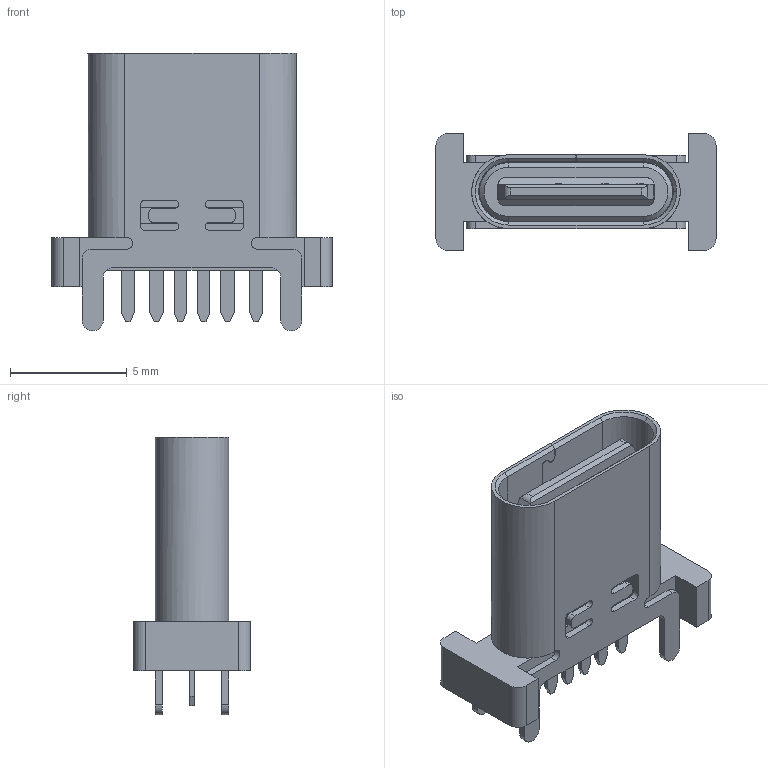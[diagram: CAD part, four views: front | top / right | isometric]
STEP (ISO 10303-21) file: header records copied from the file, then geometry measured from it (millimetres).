
FILE_DESCRIPTION (( 'STEP AP203' ), '1' );
FILE_NAME ('Product H=10.0mm.STEP', '2021-01-04T13:04:49', ( 'Windows 蚚誧' ), ( 'Microsoft' ), 'SwSTEP 2.0', 'SolidWorks 2016', '' );
FILE_SCHEMA (( 'CONFIG_CONTROL_DESIGN' ));
Length unit declared in the file: millimetre
Products named in the file (1): Product  H=10.0mm
Bounding box: 12 x 5 x 11.9 mm (x, y, z)
Volume: 194.6 mm3; surface area: 698 mm2
Topology: 1 solids, 1 shells, 314 faces, 888 edges, 585 vertices
Faces by surface type: plane 202, cylinder 107, cone 5
Entity records: 10248 total; most frequent: CARTESIAN_POINT 1824, ORIENTED_EDGE 1776, DIRECTION 1729, EDGE_CURVE 888, LINE 653, VECTOR 653, VERTEX_POINT 585, AXIS2_PLACEMENT_3D 538
